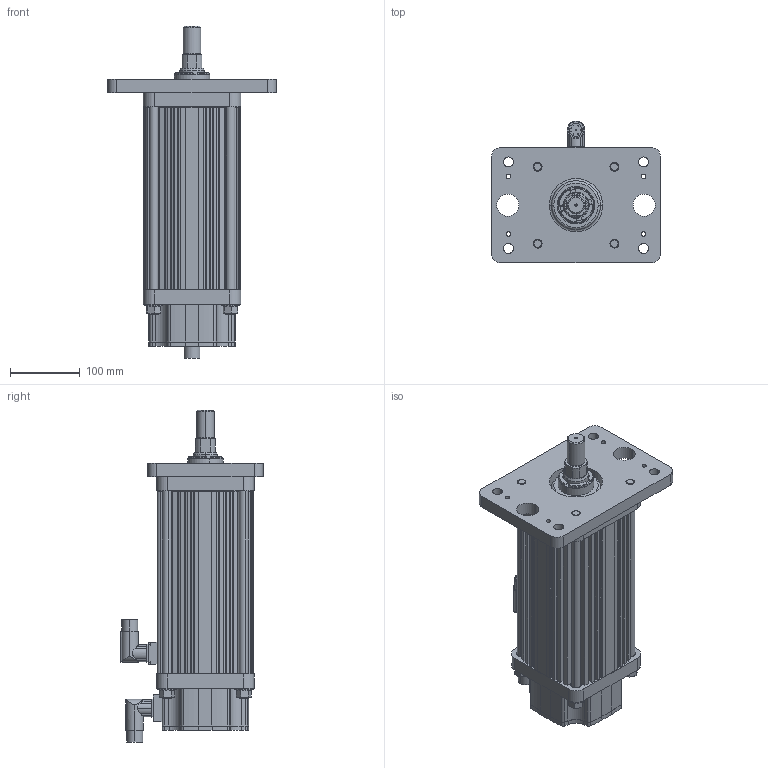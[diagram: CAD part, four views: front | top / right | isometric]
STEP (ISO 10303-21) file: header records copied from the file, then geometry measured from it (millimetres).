
FILE_DESCRIPTION (( 'STEP AP203' ), '1' );
FILE_NAME ('GSX50 – 6 inch, Front Flange, euro conn, A rod.step', '2007-08-01T04:36:29', ( 'i2t2' ), ( '' ), 'SwSTEP 2.0', 'SolidWorks 2007', '' );
FILE_SCHEMA (( 'CONFIG_CONTROL_DESIGN' ));
Length unit declared in the file: inch
Products named in the file (18): 22707; 22869_Standard; 20494; TIEROD_22696-6"; GSX50 – 6 inch, Front Flange, euro conn, A rod; CASE-GSX50_22621-6 inch; 22602; 22501_6 inch; MAIN ROD_A-MAIN ROD-6"; 22706; 19819; 23017; 31792; 22012; 22013; 22711; 11923; 22624
Assembly tree (28 placements, depth 2):
  GSX50 – 6 inch, Front Flange, euro conn, A rod
    22012  x4
    22501_6 inch
    MAIN ROD_A-MAIN ROD-6"
    TIEROD_22696-6"  x4
    19819
    22602  x2
    22707
    11923  x2
    CASE-GSX50_22621-6 inch
    23017
    31792
    22013  x4
    22869_Standard
    22624
    22706
    22711
    20494
Bounding box: 241.3 x 203.31 x 475.27 mm (x, y, z)
Volume: 3858989.7 mm3; surface area: 1007974.6 mm2
Topology: 30 solids, 30 shells, 1407 faces, 3710 edges, 2291 vertices
Faces by surface type: cylinder 626, plane 326, cone 257, torus 144, sphere 52, bspline 2
Entity records: 40111 total; most frequent: CARTESIAN_POINT 8762, DIRECTION 6502, ORIENTED_EDGE 5842, EDGE_CURVE 2921, AXIS2_PLACEMENT_3D 2648, VERTEX_POINT 1868, CIRCLE 1450, EDGE_LOOP 1417
